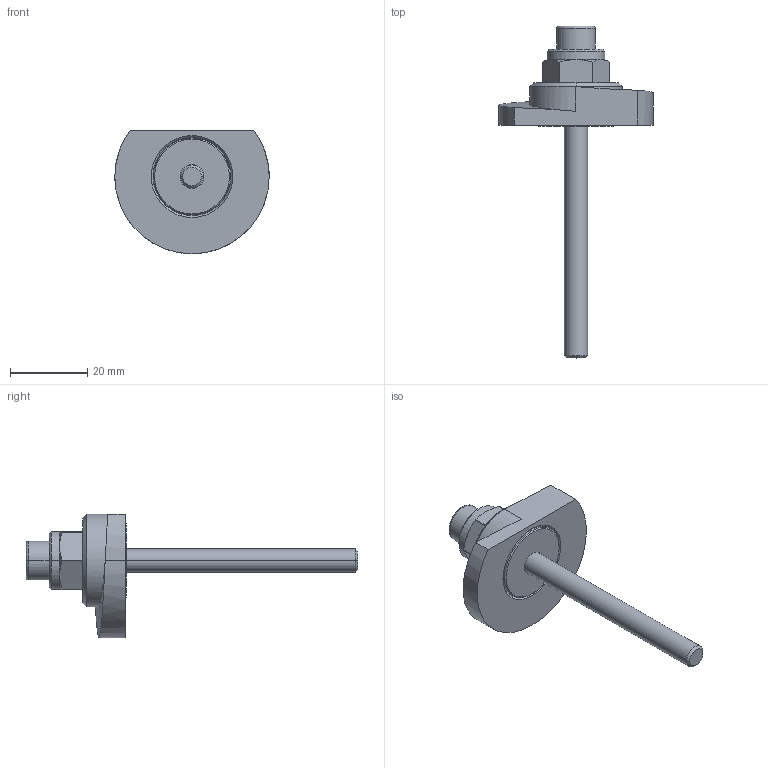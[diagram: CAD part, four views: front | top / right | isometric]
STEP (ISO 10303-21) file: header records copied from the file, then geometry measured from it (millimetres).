
FILE_DESCRIPTION (( 'STEP AP214' ), '1' );
FILE_NAME ('918.1-40-SKS-L-60.step', '2024-05-15T13:00:57', ( '' ), ( '' ), 'SwSTEP 2.0', 'SolidWorks 2022', '' );
FILE_SCHEMA (( 'AUTOMOTIVE_DESIGN' ));
Length unit declared in the file: millimetre
Products named in the file (1): 918.1-40-SKS-L-60
Bounding box: 40 x 86 x 32 mm (x, y, z)
Volume: 12646.5 mm3; surface area: 7339.4 mm2
Topology: 1 solids, 2 shells, 80 faces, 179 edges, 112 vertices
Faces by surface type: cylinder 27, plane 26, cone 22, bspline 3, torus 2
Entity records: 2599 total; most frequent: CARTESIAN_POINT 777, DIRECTION 390, ORIENTED_EDGE 358, EDGE_CURVE 179, AXIS2_PLACEMENT_3D 157, VERTEX_POINT 112, EDGE_LOOP 91, ADVANCED_FACE 80
